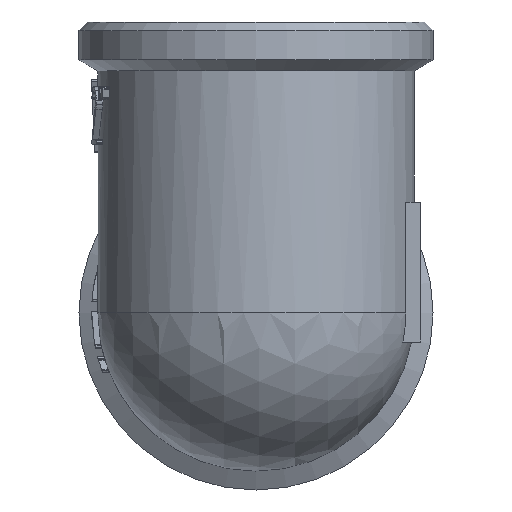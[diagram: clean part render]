
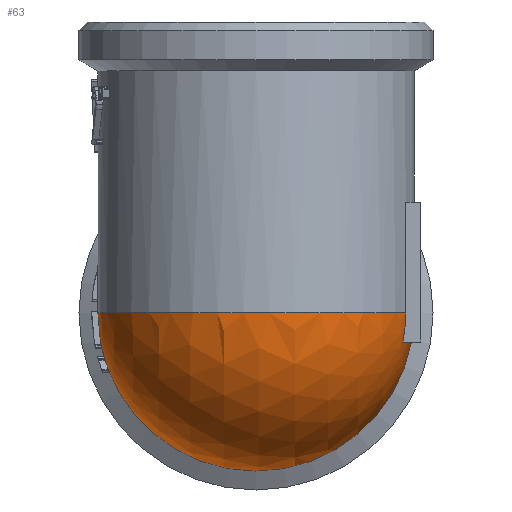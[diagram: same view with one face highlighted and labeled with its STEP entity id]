
A CAD part, front view. The second image highlights one B-rep face of the part: STEP entity #63.
In plain terms, the highlighted spherical face has radius 12.5 mm.
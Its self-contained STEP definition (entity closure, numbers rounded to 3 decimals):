
#63=ADVANCED_FACE('',(#400),#402,.T.);
#400=FACE_BOUND('',#401,.T.);
#401=EDGE_LOOP('',(#1954,#1955,#1956,#1957));
#402=SPHERICAL_SURFACE('',#403,12.5);
#403=AXIS2_PLACEMENT_3D('',#404,#405,#406);
#404=CARTESIAN_POINT('',(0.,0.,0.));
#405=DIRECTION('',(-1.,0.,0.));
#406=DIRECTION('',(0.,0.,-1.));
#1954=ORIENTED_EDGE('',*,*,#3289,.F.);
#1955=ORIENTED_EDGE('',*,*,#3284,.F.);
#1956=ORIENTED_EDGE('',*,*,#3295,.F.);
#1957=ORIENTED_EDGE('',*,*,#3378,.F.);
#3284=EDGE_CURVE('',#3872,#3873,#3874,.T.);
#3289=EDGE_CURVE('',#3873,#3877,#3881,.F.);
#3295=EDGE_CURVE('',#3889,#3872,#3891,.T.);
#3378=EDGE_CURVE('',#3877,#3889,#4056,.F.);
#3872=VERTEX_POINT('',#4894);
#3873=VERTEX_POINT('',#4895);
#3874=CIRCLE('',#4896,11.843);
#3877=VERTEX_POINT('',#4906);
#3881=CIRCLE('',#4914,12.287);
#3889=VERTEX_POINT('',#4971);
#3891=CIRCLE('',#4993,12.5);
#4056=CIRCLE('',#5863,12.5);
#4894=CARTESIAN_POINT('',(11.843,-4.,0.));
#4895=CARTESIAN_POINT('',(11.617,-4.,-2.3));
#4896=AXIS2_PLACEMENT_3D('',#4897,#4898,#4899);
#4897=CARTESIAN_POINT('',(0.,-4.,0.));
#4898=DIRECTION('',(0.,1.,0.));
#4899=DIRECTION('',(1.,0.,0.));
#4906=CARTESIAN_POINT('',(12.287,0.,-2.3));
#4914=AXIS2_PLACEMENT_3D('',#4915,#4916,#4917);
#4915=CARTESIAN_POINT('',(0.,0.,-2.3));
#4916=DIRECTION('',(0.,0.,-1.));
#4917=DIRECTION('',(1.,0.,0.));
#4971=CARTESIAN_POINT('',(-12.5,0.,0.));
#4993=AXIS2_PLACEMENT_3D('',#4994,#4995,#4996);
#4994=CARTESIAN_POINT('',(0.,0.,0.));
#4995=DIRECTION('',(0.,0.,1.));
#4996=DIRECTION('',(-1.,0.,0.));
#5863=AXIS2_PLACEMENT_3D('',#5864,#5865,#5866);
#5864=CARTESIAN_POINT('',(0.,0.,0.));
#5865=DIRECTION('',(0.,-1.,0.));
#5866=DIRECTION('',(-1.,0.,0.));
